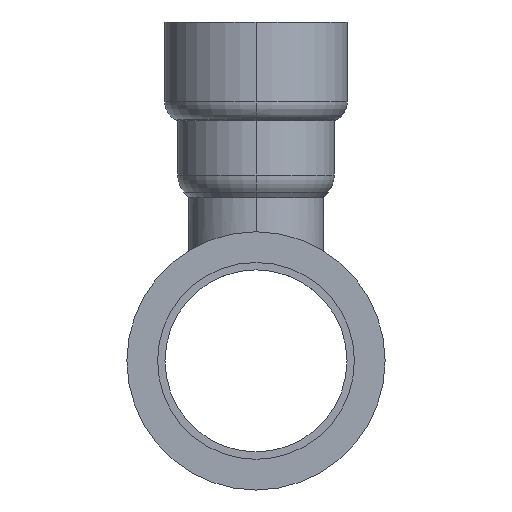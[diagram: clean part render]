
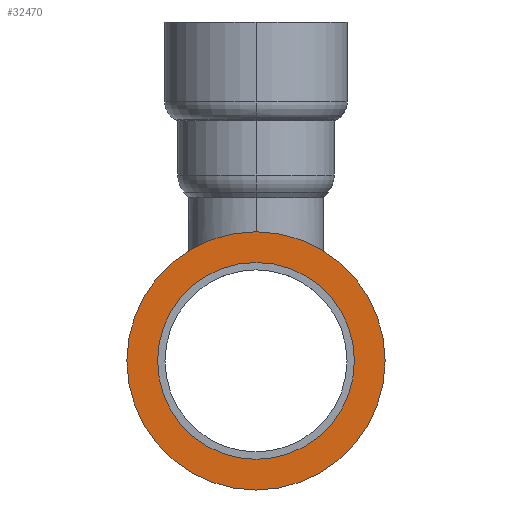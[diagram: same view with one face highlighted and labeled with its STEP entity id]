
A CAD part, left-side view. The second image highlights one B-rep face of the part: STEP entity #32470.
In plain terms, the highlighted planar face has unit normal (-1, 0, 0).
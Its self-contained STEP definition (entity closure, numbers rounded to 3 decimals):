
#31980=CARTESIAN_POINT('',(36.11,61.4,0.));
#31990=VERTEX_POINT('',#31980);
#32080=CARTESIAN_POINT('',(36.11,16.,0.
));
#32090=VERTEX_POINT('',#32080);
#32120=CARTESIAN_POINT('',(36.11,38.7,0.));
#32130=DIRECTION('',(-1.,0.,0.));
#32140=DIRECTION('',(0.,1.,0.));
#32150=AXIS2_PLACEMENT_3D('',#32120,#32130,#32140);
#32160=CIRCLE('',#32150,22.7);
#32170=EDGE_CURVE('',#32090,#31990,#32160,.T.);
#32220=CARTESIAN_POINT('',(36.11,17.7,0.));
#32230=DIRECTION('',(-1.,0.,0.));
#32240=DIRECTION('',(0.,-1.,0.));
#32250=AXIS2_PLACEMENT_3D('',#32220,#32230,#32240);
#32260=PLANE('',#32250);
#32270=CARTESIAN_POINT('',(36.11,38.7,0.));
#32280=DIRECTION('',(-1.,0.,0.));
#32290=DIRECTION('',(0.,1.,0.));
#32300=AXIS2_PLACEMENT_3D('',#32270,#32280,#32290);
#32310=CIRCLE('',#32300,17.3);
#32320=CARTESIAN_POINT('',(36.11,56.,0.));
#32330=VERTEX_POINT('',#32320);
#32340=CARTESIAN_POINT('',(36.11,21.4,0.
));
#32350=VERTEX_POINT('',#32340);
#32360=EDGE_CURVE('',#32330,#32350,#32310,.T.);
#32370=ORIENTED_EDGE('',*,*,#32360,.F.);
#32380=EDGE_CURVE('',#32350,#32330,#32310,.T.);
#32390=ORIENTED_EDGE('',*,*,#32380,.F.);
#32400=EDGE_LOOP('',(#32390,#32370));
#32410=FACE_BOUND('',#32400,.T.);
#32420=EDGE_CURVE('',#31990,#32090,#32160,.T.);
#32430=ORIENTED_EDGE('',*,*,#32420,.T.);
#32440=ORIENTED_EDGE('',*,*,#32170,.T.);
#32450=EDGE_LOOP('',(#32440,#32430));
#32460=FACE_OUTER_BOUND('',#32450,.T.);
#32470=ADVANCED_FACE('',(#32410,#32460),#32260,.T.);
